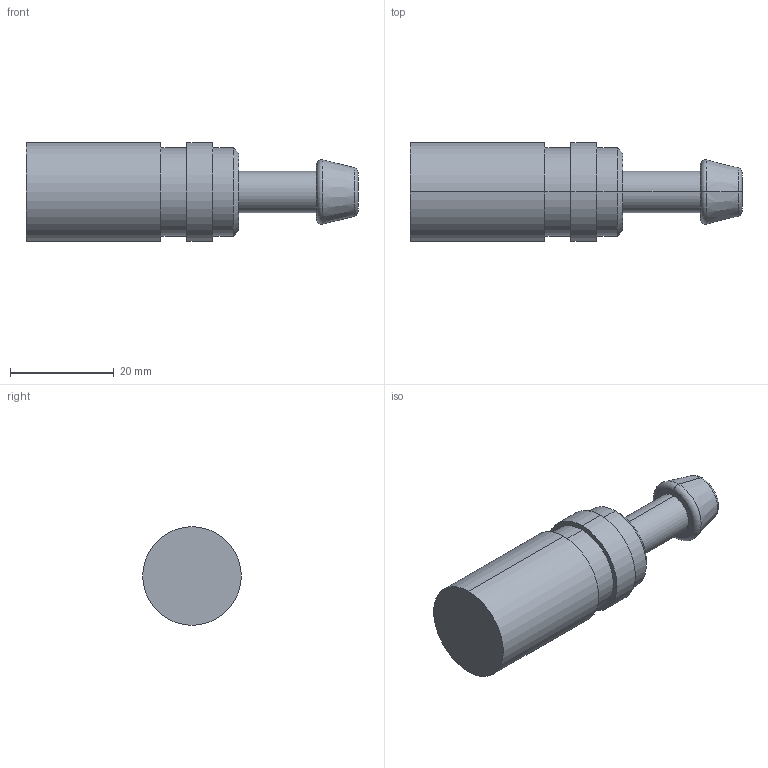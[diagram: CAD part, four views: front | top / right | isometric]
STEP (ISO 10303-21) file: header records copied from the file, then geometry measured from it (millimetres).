
FILE_DESCRIPTION (( 'STEP AP214' ), '1' );
FILE_NAME ('BR601.06 HGB 08.STEP', '2020-12-02T13:58:28', ( '' ), ( '' ), 'SwSTEP 2.0', 'SolidWorks 2018', '' );
FILE_SCHEMA (( 'AUTOMOTIVE_DESIGN' ));
Length unit declared in the file: millimetre
Products named in the file (1): BR601.06 HGB 08
Bounding box: 64 x 19 x 19 mm (x, y, z)
Volume: 12538.6 mm3; surface area: 3752 mm2
Topology: 1 solids, 1 shells, 25 faces, 48 edges, 30 vertices
Faces by surface type: cylinder 10, plane 7, cone 4, torus 4
Entity records: 682 total; most frequent: DIRECTION 134, CARTESIAN_POINT 104, ORIENTED_EDGE 96, AXIS2_PLACEMENT_3D 60, EDGE_CURVE 48, CIRCLE 34, VERTEX_POINT 30, EDGE_LOOP 30
